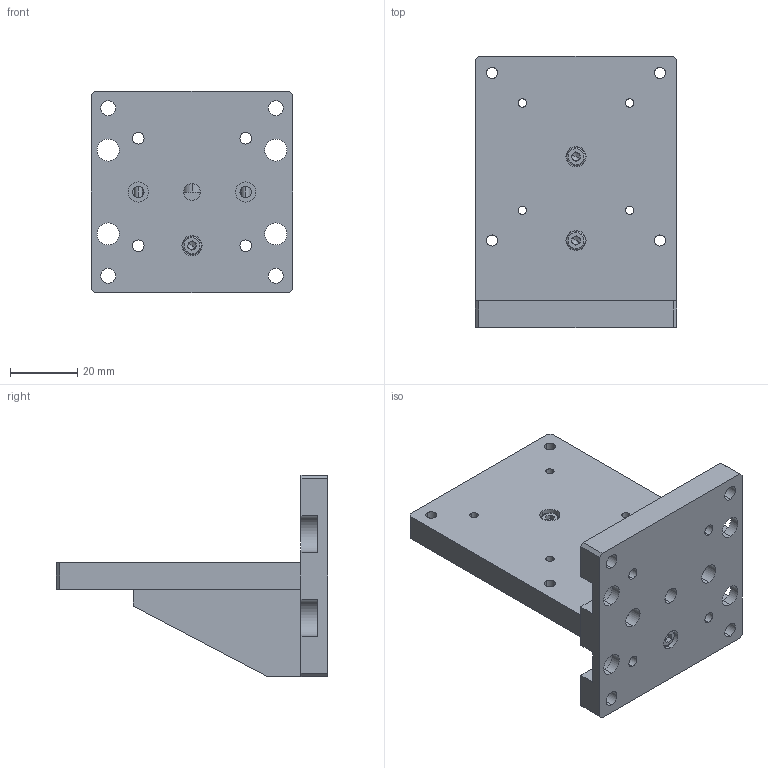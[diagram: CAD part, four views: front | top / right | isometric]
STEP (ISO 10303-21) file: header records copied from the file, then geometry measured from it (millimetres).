
FILE_DESCRIPTION (( 'STEP AP203' ), '1' );
FILE_NAME ('PHOB-S60.step', '2019-05-08T10:23:43', ( '' ), ( '' ), 'SwSTEP 2.0', 'SolidWorks 2017', '' );
FILE_SCHEMA (( 'CONFIG_CONTROL_DESIGN' ));
Length unit declared in the file: millimetre
Products named in the file (1): PHOB-S60
Bounding box: 60 x 81 x 60 mm (x, y, z)
Surface area: 23828.8 mm2 (no closed solid volume)
Topology: 0 solids, 11 shells, 166 faces, 732 edges, 572 vertices
Faces by surface type: plane 82, cylinder 72, torus 6, cone 6
Entity records: 7630 total; most frequent: CARTESIAN_POINT 1465, DIRECTION 1258, ORIENTED_EDGE 1089, EDGE_CURVE 726, VERTEX_POINT 572, LINE 528, VECTOR 528, AXIS2_PLACEMENT_3D 365
